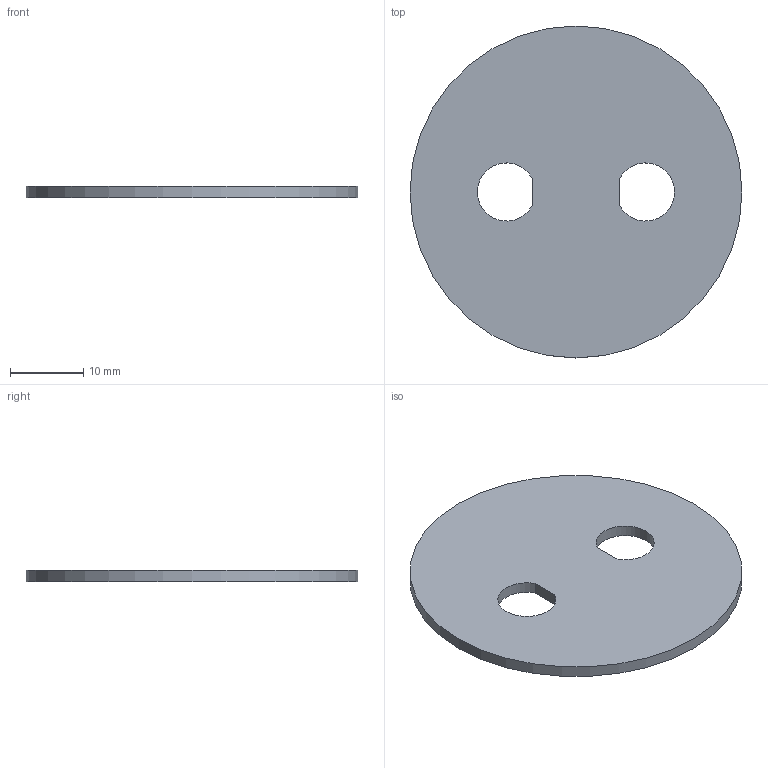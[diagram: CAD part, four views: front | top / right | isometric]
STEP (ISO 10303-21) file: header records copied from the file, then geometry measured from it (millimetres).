
FILE_DESCRIPTION(('KiCad electronic assembly'),'2;1');
FILE_NAME('KF40_SMA_v1.step','2022-07-04T16:05:11',('Pcbnew'),('Kicad'), 'Open CASCADE STEP processor 7.5','KiCad to STEP converter','Unknown' );
FILE_SCHEMA(('AUTOMOTIVE_DESIGN { 1 0 10303 214 1 1 1 1 }'));
Length unit declared in the file: millimetre
Products named in the file (2): KF40_SMA_v1 1; KF40_SMA_v1 PCB
Assembly tree (1 placements, depth 2):
  KF40_SMA_v1 1
    KF40_SMA_v1 PCB
Bounding box: 45.48 x 45.48 x 1.6 mm (x, y, z)
Volume: 2443.1 mm3; surface area: 3362 mm2
Topology: 1 solids, 1 shells, 7 faces, 15 edges, 10 vertices
Faces by surface type: plane 4, cylinder 3
Full cylindrical faces by diameter (mm): 45.475 x1
Entity records: 445 total; most frequent: DIRECTION 69, CARTESIAN_POINT 64, LINE 33, VECTOR 33, ORIENTED_EDGE 30, PCURVE 30, DEFINITIONAL_REPRESENTATION 30, AXIS2_PLACEMENT_3D 15
